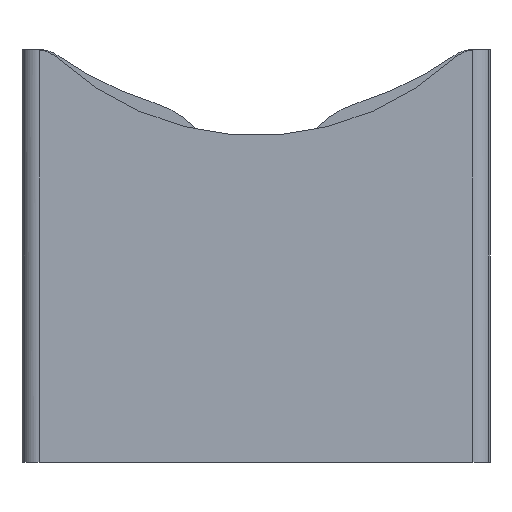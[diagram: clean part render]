
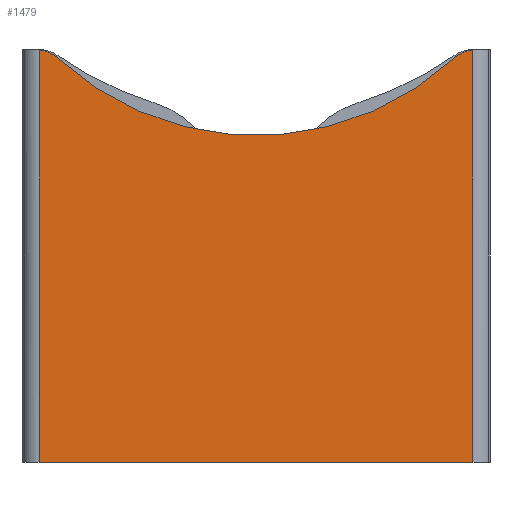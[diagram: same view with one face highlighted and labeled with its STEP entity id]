
A CAD part, left-side view. The second image highlights one B-rep face of the part: STEP entity #1479.
In plain terms, the highlighted planar face has unit normal (-1, 0, 0).
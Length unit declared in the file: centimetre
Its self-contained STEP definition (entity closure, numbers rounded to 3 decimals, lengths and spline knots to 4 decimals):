
#73=CIRCLE($,#1609,1.);
#74=CIRCLE($,#1611,8.5);
#75=CIRCLE($,#1613,1.);
#176=FACE_OUTER_BOUND($,#256,.T.);
#256=EDGE_LOOP($,(#1307,#1308,#1309,#1310,#1311,#1312));
#296=LINE($,#2111,#447);
#391=LINE($,#2471,#542);
#392=LINE($,#2474,#543);
#447=VECTOR($,#1690,12.6);
#542=VECTOR($,#1971,11.9925);
#543=VECTOR($,#1974,11.9925);
#591=VERTEX_POINT($,#2107);
#593=VERTEX_POINT($,#2110);
#693=VERTEX_POINT($,#2466);
#694=VERTEX_POINT($,#2473);
#695=VERTEX_POINT($,#2482);
#696=VERTEX_POINT($,#2486);
#745=EDGE_CURVE($,#591,#593,#296,.F.);
#896=EDGE_CURVE($,#693,#591,#391,.T.);
#897=EDGE_CURVE($,#593,#694,#392,.T.);
#901=EDGE_CURVE($,#695,#693,#73,.T.);
#903=EDGE_CURVE($,#696,#695,#74,.T.);
#904=EDGE_CURVE($,#694,#696,#75,.T.);
#1307=ORIENTED_EDGE($,*,*,#897,.F.);
#1308=ORIENTED_EDGE($,*,*,#745,.F.);
#1309=ORIENTED_EDGE($,*,*,#896,.F.);
#1310=ORIENTED_EDGE($,*,*,#901,.F.);
#1311=ORIENTED_EDGE($,*,*,#903,.F.);
#1312=ORIENTED_EDGE($,*,*,#904,.F.);
#1402=PLANE($,#1614);
#1479=ADVANCED_FACE($,(#176),#1402,.T.);
#1609=AXIS2_PLACEMENT_3D($,#2484,#1981,#1982);
#1611=AXIS2_PLACEMENT_3D($,#2488,#1986,#1987);
#1613=AXIS2_PLACEMENT_3D($,#2490,#1990,#1991);
#1614=AXIS2_PLACEMENT_3D($,#2491,#1992,#1993);
#1690=DIRECTION($,(0.,-1.,0.));
#1971=DIRECTION($,(0.,0.,-1.));
#1974=DIRECTION($,(0.,0.,1.));
#1981=DIRECTION('center_axis',(1.,0.,0.));
#1982=DIRECTION('ref_axis',(0.,0.363,0.932));
#1986=DIRECTION('center_axis',(-1.,0.,0.));
#1987=DIRECTION('ref_axis',(0.,0.,-1.));
#1990=DIRECTION('center_axis',(1.,0.,0.));
#1991=DIRECTION('ref_axis',(0.,-0.363,0.932));
#1992=DIRECTION('center_axis',(-1.,0.,0.));
#1993=DIRECTION('ref_axis',(0.,0.,1.));
#2107=CARTESIAN_POINT('',(-21.,13.,0.));
#2110=CARTESIAN_POINT('',(-21.,25.6,0.));
#2111=CARTESIAN_POINT($,(-21.,18.65,0.));
#2466=CARTESIAN_POINT('',(-21.,13.,11.9925));
#2471=CARTESIAN_POINT($,(-21.,13.,4.8));
#2473=CARTESIAN_POINT('',(-21.,25.6,11.9925));
#2474=CARTESIAN_POINT($,(-21.,25.6,4.8));
#2482=CARTESIAN_POINT('',(-21.,13.5534,11.7368));
#2484=CARTESIAN_POINT('Origin',(-21.,12.8774,11.));
#2486=CARTESIAN_POINT('',(-21.,25.0466,11.7368));
#2488=CARTESIAN_POINT('Origin',(-21.,19.3,18.));
#2490=CARTESIAN_POINT('Origin',(-21.,25.7226,11.));
#2491=CARTESIAN_POINT('Origin',(-21.,19.3,4.8));
